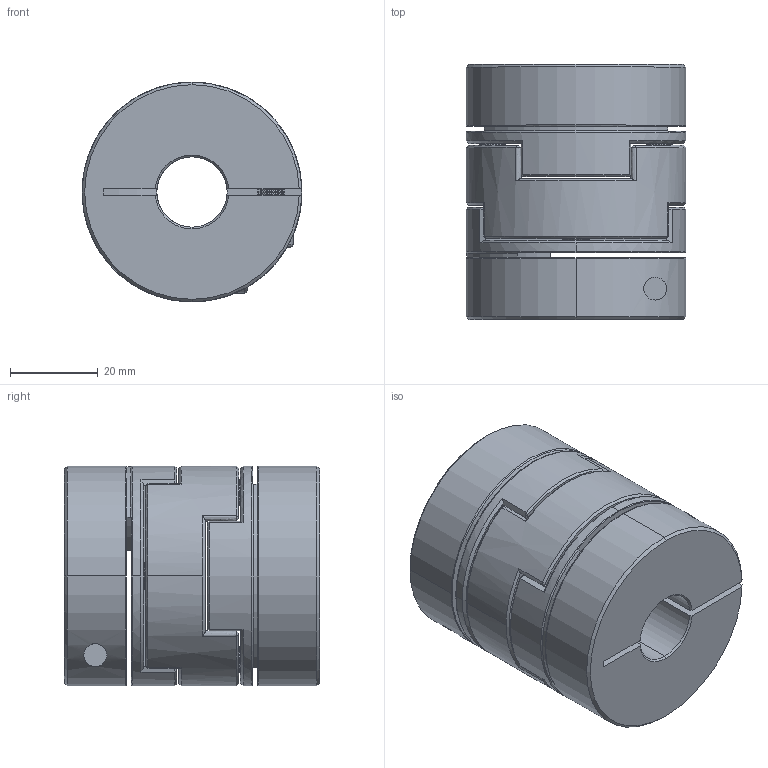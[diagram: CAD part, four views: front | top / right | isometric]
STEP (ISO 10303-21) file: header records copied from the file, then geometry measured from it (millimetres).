
FILE_DESCRIPTION (( 'STEP AP203' ), '1' );
FILE_NAME ('LZ-B-D50L58-16-16.STEP', '2021-10-29T08:11:05', ( '' ), ( '' ), 'SwSTEP 2.0', 'SolidWorks 2018', '' );
FILE_SCHEMA (( 'CONFIG_CONTROL_DESIGN' ));
Length unit declared in the file: millimetre
Products named in the file (1): LZ-B-D50L58-16-16
Bounding box: 50 x 58 x 50 mm (x, y, z)
Volume: 93177.3 mm3; surface area: 30099.2 mm2
Topology: 1 solids, 27 shells, 560 faces, 1364 edges, 810 vertices
Faces by surface type: cone 252, cylinder 160, plane 90, bspline 54, torus 4
Entity records: 17422 total; most frequent: CARTESIAN_POINT 4342, DIRECTION 2782, ORIENTED_EDGE 2720, EDGE_CURVE 1360, AXIS2_PLACEMENT_3D 1123, VERTEX_POINT 810, CIRCLE 616, EDGE_LOOP 594
